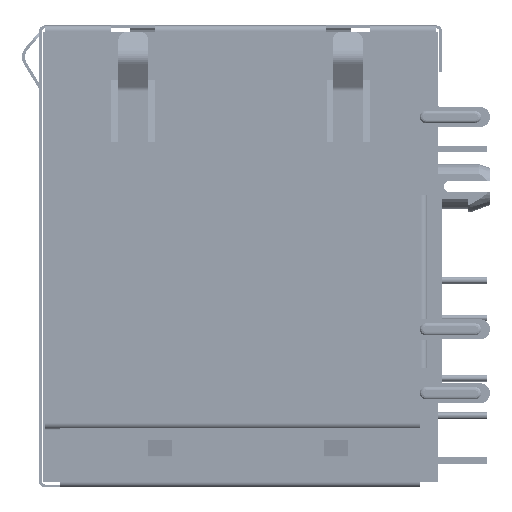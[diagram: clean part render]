
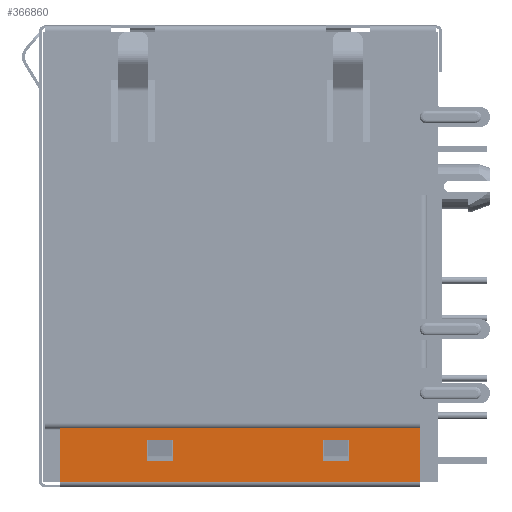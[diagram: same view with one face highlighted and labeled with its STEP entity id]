
A CAD part, left-side view. The second image highlights one B-rep face of the part: STEP entity #366860.
In plain terms, the highlighted planar face has unit normal (-1, 0, 0).
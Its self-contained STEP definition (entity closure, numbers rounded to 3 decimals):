
#338716=DIRECTION('',(0.,-1.,0.));
#338717=VECTOR('',#338716,24.335);
#338718=CARTESIAN_POINT('',(-57.175,29.085,-30.89));
#338719=LINE('',#338718,#338717);
#338724=DIRECTION('',(0.,0.,-1.));
#338725=VECTOR('',#338724,3.6);
#338726=CARTESIAN_POINT('',(-57.175,29.085,-27.29));
#338727=LINE('',#338726,#338725);
#338886=DIRECTION('',(0.,0.,1.));
#338887=VECTOR('',#338886,3.6);
#338888=CARTESIAN_POINT('',(-57.175,4.75,-30.89));
#338889=LINE('',#338888,#338887);
#338898=DIRECTION('',(0.,1.,0.));
#338899=VECTOR('',#338898,24.335);
#338900=CARTESIAN_POINT('',(-57.175,4.75,-27.29));
#338901=LINE('',#338900,#338899);
#360678=DIRECTION('',(0.,0.,-1.));
#360679=VECTOR('',#360678,1.45);
#360680=CARTESIAN_POINT('',(-57.175,23.205,-28.06));
#360681=LINE('',#360680,#360679);
#360686=DIRECTION('',(0.,-1.,0.));
#360687=VECTOR('',#360686,1.8);
#360688=CARTESIAN_POINT('',(-57.175,23.205,-29.51));
#360689=LINE('',#360688,#360687);
#360698=DIRECTION('',(0.,0.,1.));
#360699=VECTOR('',#360698,1.45);
#360700=CARTESIAN_POINT('',(-57.175,21.405,-29.51));
#360701=LINE('',#360700,#360699);
#360714=DIRECTION('',(0.,1.,0.));
#360715=VECTOR('',#360714,1.8);
#360716=CARTESIAN_POINT('',(-57.175,21.405,-28.06));
#360717=LINE('',#360716,#360715);
#360726=DIRECTION('',(0.,0.,-1.));
#360727=VECTOR('',#360726,1.45);
#360728=CARTESIAN_POINT('',(-57.175,11.305,-28.06));
#360729=LINE('',#360728,#360727);
#360734=DIRECTION('',(0.,-1.,0.));
#360735=VECTOR('',#360734,1.8);
#360736=CARTESIAN_POINT('',(-57.175,11.305,-29.51));
#360737=LINE('',#360736,#360735);
#360746=DIRECTION('',(0.,0.,1.));
#360747=VECTOR('',#360746,1.45);
#360748=CARTESIAN_POINT('',(-57.175,9.505,-29.51));
#360749=LINE('',#360748,#360747);
#360762=DIRECTION('',(0.,1.,0.));
#360763=VECTOR('',#360762,1.8);
#360764=CARTESIAN_POINT('',(-57.175,9.505,-28.06));
#360765=LINE('',#360764,#360763);
#361310=CARTESIAN_POINT('',(-57.175,29.085,-30.89));
#361311=VERTEX_POINT('',#361310);
#361314=CARTESIAN_POINT('',(-57.175,4.75,-30.89));
#361315=VERTEX_POINT('',#361314);
#361316=CARTESIAN_POINT('',(-57.175,29.085,-27.29));
#361317=VERTEX_POINT('',#361316);
#361318=CARTESIAN_POINT('',(-57.175,4.75,-27.29));
#361319=VERTEX_POINT('',#361318);
#361320=CARTESIAN_POINT('',(-57.175,11.305,-28.06));
#361321=CARTESIAN_POINT('',(-57.175,11.305,-29.51));
#361322=VERTEX_POINT('',#361320);
#361323=VERTEX_POINT('',#361321);
#361324=CARTESIAN_POINT('',(-57.175,9.505,-28.06));
#361325=VERTEX_POINT('',#361324);
#361326=CARTESIAN_POINT('',(-57.175,9.505,-29.51));
#361327=VERTEX_POINT('',#361326);
#361328=CARTESIAN_POINT('',(-57.175,23.205,-28.06));
#361329=CARTESIAN_POINT('',(-57.175,23.205,-29.51));
#361330=VERTEX_POINT('',#361328);
#361331=VERTEX_POINT('',#361329);
#361332=CARTESIAN_POINT('',(-57.175,21.405,-28.06));
#361333=VERTEX_POINT('',#361332);
#361334=CARTESIAN_POINT('',(-57.175,21.405,-29.51));
#361335=VERTEX_POINT('',#361334);
#366826=CARTESIAN_POINT('',(-57.175,16.918,-29.09));
#366827=DIRECTION('',(1.,0.,0.));
#366828=DIRECTION('',(0.,1.,0.));
#366829=AXIS2_PLACEMENT_3D('',#366826,#366827,#366828);
#366830=PLANE('',#366829);
#366832=ORIENTED_EDGE('',*,*,#366831,.F.);
#366834=ORIENTED_EDGE('',*,*,#366833,.F.);
#366836=ORIENTED_EDGE('',*,*,#366835,.F.);
#366837=ORIENTED_EDGE('',*,*,#366817,.F.);
#366838=EDGE_LOOP('',(#366832,#366834,#366836,#366837));
#366839=FACE_OUTER_BOUND('',#366838,.F.);
#366841=ORIENTED_EDGE('',*,*,#366840,.T.);
#366843=ORIENTED_EDGE('',*,*,#366842,.T.);
#366845=ORIENTED_EDGE('',*,*,#366844,.T.);
#366847=ORIENTED_EDGE('',*,*,#366846,.T.);
#366848=EDGE_LOOP('',(#366841,#366843,#366845,#366847));
#366849=FACE_BOUND('',#366848,.F.);
#366851=ORIENTED_EDGE('',*,*,#366850,.T.);
#366853=ORIENTED_EDGE('',*,*,#366852,.T.);
#366855=ORIENTED_EDGE('',*,*,#366854,.T.);
#366857=ORIENTED_EDGE('',*,*,#366856,.T.);
#366858=EDGE_LOOP('',(#366851,#366853,#366855,#366857));
#366859=FACE_BOUND('',#366858,.F.);
#366860=ADVANCED_FACE('',(#366839,#366849,#366859),#366830,.F.);
#366817=EDGE_CURVE('',#361311,#361315,#338719,.T.);
#366831=EDGE_CURVE('',#361317,#361311,#338727,.T.);
#366833=EDGE_CURVE('',#361319,#361317,#338901,.T.);
#366835=EDGE_CURVE('',#361315,#361319,#338889,.T.);
#366840=EDGE_CURVE('',#361322,#361323,#360729,.T.);
#366842=EDGE_CURVE('',#361323,#361327,#360737,.T.);
#366844=EDGE_CURVE('',#361327,#361325,#360749,.T.);
#366846=EDGE_CURVE('',#361325,#361322,#360765,.T.);
#366850=EDGE_CURVE('',#361330,#361331,#360681,.T.);
#366852=EDGE_CURVE('',#361331,#361335,#360689,.T.);
#366854=EDGE_CURVE('',#361335,#361333,#360701,.T.);
#366856=EDGE_CURVE('',#361333,#361330,#360717,.T.);
